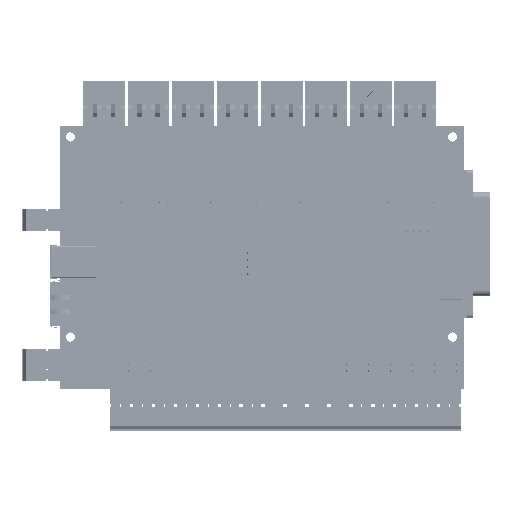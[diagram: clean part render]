
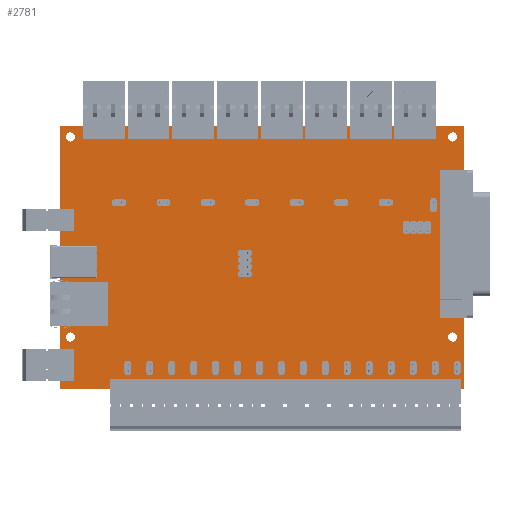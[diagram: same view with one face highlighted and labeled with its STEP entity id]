
A CAD part, top view. The second image highlights one B-rep face of the part: STEP entity #2781.
In plain terms, the highlighted planar face has unit normal (0, 0, 1).
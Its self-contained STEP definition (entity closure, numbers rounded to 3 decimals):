
#2781=ADVANCED_FACE('',(#20241,#20243,#20245,#20247,#20249),#20251,.T.);
#20241=FACE_BOUND('',#20242,.T.);
#20242=EDGE_LOOP('',(#34631,#34632,#34633,#34634));
#20243=FACE_BOUND('',#20244,.T.);
#20244=EDGE_LOOP('',(#34635));
#20245=FACE_BOUND('',#20246,.T.);
#20246=EDGE_LOOP('',(#34636));
#20247=FACE_BOUND('',#20248,.T.);
#20248=EDGE_LOOP('',(#34637));
#20249=FACE_BOUND('',#20250,.T.);
#20250=EDGE_LOOP('',(#34638));
#20251=PLANE('',#20252);
#20252=AXIS2_PLACEMENT_3D('',#20253,#20254,#20255);
#20253=CARTESIAN_POINT('',(0.,0.,2.));
#20254=DIRECTION('',(0.,0.,1.));
#20255=DIRECTION('',(1.,0.,0.));
#34631=ORIENTED_EDGE('',*,*,#45007,.T.);
#34632=ORIENTED_EDGE('',*,*,#45008,.T.);
#34633=ORIENTED_EDGE('',*,*,#45009,.T.);
#34634=ORIENTED_EDGE('',*,*,#45010,.T.);
#34635=ORIENTED_EDGE('',*,*,#45011,.T.);
#34636=ORIENTED_EDGE('',*,*,#45012,.T.);
#34637=ORIENTED_EDGE('',*,*,#45013,.T.);
#34638=ORIENTED_EDGE('',*,*,#45014,.T.);
#45007=EDGE_CURVE('',#50203,#50204,#50205,.T.);
#45008=EDGE_CURVE('',#50204,#50206,#50207,.T.);
#45009=EDGE_CURVE('',#50206,#50208,#50209,.T.);
#45010=EDGE_CURVE('',#50208,#50203,#50210,.T.);
#45011=EDGE_CURVE('',#50211,#50211,#50212,.F.);
#45012=EDGE_CURVE('',#50213,#50213,#50214,.F.);
#45013=EDGE_CURVE('',#50215,#50215,#50216,.F.);
#45014=EDGE_CURVE('',#50217,#50217,#50218,.F.);
#50203=VERTEX_POINT('',#58865);
#50204=VERTEX_POINT('',#58866);
#50205=LINE('',#58867,#58868);
#50206=VERTEX_POINT('',#58870);
#50207=LINE('',#58871,#58872);
#50208=VERTEX_POINT('',#58874);
#50209=LINE('',#58875,#58876);
#50210=LINE('',#58878,#58879);
#50211=VERTEX_POINT('',#58881);
#50212=CIRCLE('',#58882,1.65);
#50213=VERTEX_POINT('',#58886);
#50214=CIRCLE('',#58887,1.65);
#50215=VERTEX_POINT('',#58891);
#50216=CIRCLE('',#58892,1.65);
#50217=VERTEX_POINT('',#58896);
#50218=CIRCLE('',#58897,1.65);
#58865=CARTESIAN_POINT('',(145.4,94.7,2.));
#58866=CARTESIAN_POINT('',(0.,94.7,2.));
#58867=CARTESIAN_POINT('',(145.4,94.7,2.));
#58868=VECTOR('',#58869,1.);
#58869=DIRECTION('',(-1.,0.,0.));
#58870=CARTESIAN_POINT('',(0.,0.,2.));
#58871=CARTESIAN_POINT('',(0.,94.7,2.));
#58872=VECTOR('',#58873,1.);
#58873=DIRECTION('',(0.,-1.,0.));
#58874=CARTESIAN_POINT('',(145.4,0.,2.));
#58875=CARTESIAN_POINT('',(0.,0.,2.));
#58876=VECTOR('',#58877,1.);
#58877=DIRECTION('',(1.,0.,0.));
#58878=CARTESIAN_POINT('',(145.4,0.,2.));
#58879=VECTOR('',#58880,1.);
#58880=DIRECTION('',(0.,1.,0.));
#58881=CARTESIAN_POINT('',(143.088,90.7,2.));
#58882=AXIS2_PLACEMENT_3D('',#58883,#58884,#58885);
#58883=CARTESIAN_POINT('',(141.438,90.7,2.));
#58884=DIRECTION('',(0.,0.,1.));
#58885=DIRECTION('',(1.,0.,0.));
#58886=CARTESIAN_POINT('',(5.588,90.7,2.));
#58887=AXIS2_PLACEMENT_3D('',#58888,#58889,#58890);
#58888=CARTESIAN_POINT('',(3.938,90.7,2.));
#58889=DIRECTION('',(0.,0.,1.));
#58890=DIRECTION('',(1.,0.,0.));
#58891=CARTESIAN_POINT('',(143.088,18.7,2.));
#58892=AXIS2_PLACEMENT_3D('',#58893,#58894,#58895);
#58893=CARTESIAN_POINT('',(141.438,18.7,2.));
#58894=DIRECTION('',(0.,0.,1.));
#58895=DIRECTION('',(1.,0.,0.));
#58896=CARTESIAN_POINT('',(5.588,18.7,2.));
#58897=AXIS2_PLACEMENT_3D('',#58898,#58899,#58900);
#58898=CARTESIAN_POINT('',(3.938,18.7,2.));
#58899=DIRECTION('',(0.,0.,1.));
#58900=DIRECTION('',(1.,0.,0.));
